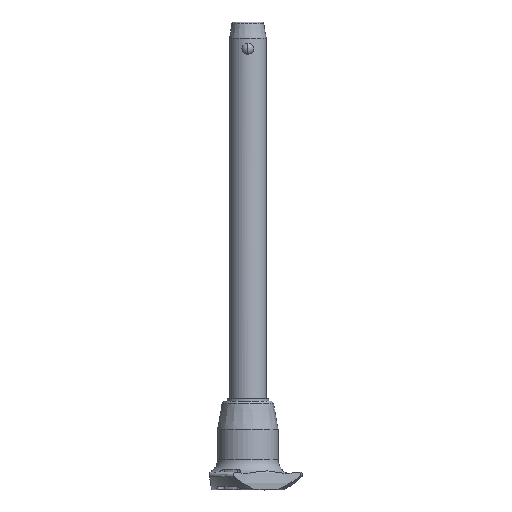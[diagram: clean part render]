
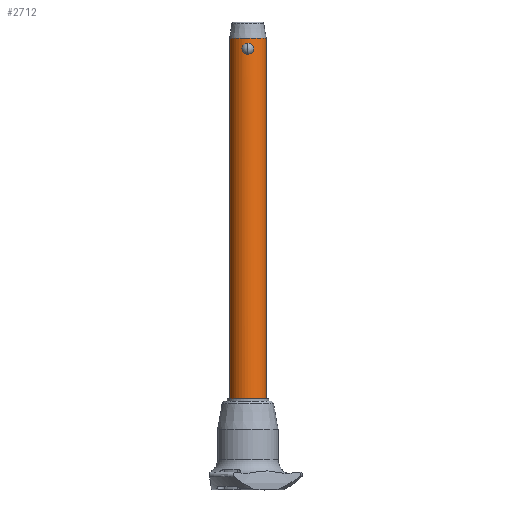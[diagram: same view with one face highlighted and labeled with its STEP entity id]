
A CAD part, front view. The second image highlights one B-rep face of the part: STEP entity #2712.
In plain terms, the highlighted cylindrical face has radius 8 mm (diameter 16 mm), a partial arc.
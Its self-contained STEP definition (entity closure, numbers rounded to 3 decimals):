
#35 = LINE ( 'NONE', #624, #2836 ) ;
#47 = CARTESIAN_POINT ( 'NONE',  ( -1.53, -7.854, 0.464 ) ) ;
#79 = EDGE_LOOP ( 'NONE', ( #468, #935 ) ) ;
#104 = CARTESIAN_POINT ( 'NONE',  ( 0., -8., 0. ) ) ;
#112 = CARTESIAN_POINT ( 'NONE',  ( -2.211, -7.69, 1.148 ) ) ;
#150 = CARTESIAN_POINT ( 'NONE',  ( -1.252, -7.903, 4.479 ) ) ;
#169 = VERTEX_POINT ( 'NONE', #104 ) ;
#176 = CARTESIAN_POINT ( 'NONE',  ( 2.004, -7.746, 0.894 ) ) ;
#179 = CARTESIAN_POINT ( 'NONE',  ( -0.324, -8., 0. ) ) ;
#193 = CARTESIAN_POINT ( 'NONE',  ( 2.194, -7.694, 1.153 ) ) ;
#194 = DIRECTION ( 'NONE',  ( 0., 0., 1. ) ) ;
#210 = CARTESIAN_POINT ( 'NONE',  ( 2.275, -7.67, 1.291 ) ) ;
#243 = EDGE_CURVE ( 'NONE', #457, #169, #830, .T. ) ;
#294 = CARTESIAN_POINT ( 'NONE',  ( -2.408, -7.629, 3.189 ) ) ;
#326 = AXIS2_PLACEMENT_3D ( 'NONE', #2598, #397, #2639 ) ;
#389 = CARTESIAN_POINT ( 'NONE',  ( 1.108, -7.924, 4.548 ) ) ;
#393 = CARTESIAN_POINT ( 'NONE',  ( -1.254, -7.902, 0.297 ) ) ;
#397 = DIRECTION ( 'NONE',  ( 0., 0., 1. ) ) ;
#406 = CARTESIAN_POINT ( 'NONE',  ( 1.657, -7.827, 0.558 ) ) ;
#419 = CARTESIAN_POINT ( 'NONE',  ( 1.105, -7.925, 0.226 ) ) ;
#430 = CARTESIAN_POINT ( 'NONE',  ( 0., 0., -150. ) ) ;
#448 = CARTESIAN_POINT ( 'NONE',  ( -1.106, -7.925, 0.226 ) ) ;
#457 = VERTEX_POINT ( 'NONE', #2221 ) ;
#468 = ORIENTED_EDGE ( 'NONE', *, *, #243, .F. ) ;
#532 = CARTESIAN_POINT ( 'NONE',  ( -2.276, -7.67, 3.482 ) ) ;
#589 = CARTESIAN_POINT ( 'NONE',  ( -1.527, -7.854, 4.313 ) ) ;
#624 = CARTESIAN_POINT ( 'NONE',  ( -8., 0., -150. ) ) ;
#629 = FACE_OUTER_BOUND ( 'NONE', #1933, .T. ) ;
#631 = EDGE_CURVE ( 'NONE', #2695, #1816, #2565, .T. ) ;
#637 = CARTESIAN_POINT ( 'NONE',  ( 2.547, -7.584, 2.549 ) ) ;
#670 = CARTESIAN_POINT ( 'NONE',  ( 0., -8., 4.775 ) ) ;
#682 = CARTESIAN_POINT ( 'NONE',  ( -0.652, -7.979, 0.058 ) ) ;
#737 = VERTEX_POINT ( 'NONE', #850 ) ;
#739 = CARTESIAN_POINT ( 'NONE',  ( -2.546, -7.584, 2.553 ) ) ;
#768 = CARTESIAN_POINT ( 'NONE',  ( -2.529, -7.59, 2.064 ) ) ;
#799 = VERTEX_POINT ( 'NONE', #2520 ) ;
#828 = CARTESIAN_POINT ( 'NONE',  ( 8., 0., 7. ) ) ;
#830 = B_SPLINE_CURVE_WITH_KNOTS ( 'NONE', 3,
 ( #2139, #1906, #1887, #2783, #1231, #2122, #150, #589, #1025, #2578, #1468, #2354, #532, #294, #1418, #1829, #739, #1405, #768, #1644, #2530, #112, #1606, #2494, #47, #393, #448, #682, #179, #1488 ),
 .UNSPECIFIED., .F., .F.,
 ( 4, 2, 2, 2, 2, 2, 2, 2, 2, 2, 2, 2, 2, 2, 4 ),
 ( 0., 0., 0.001, 0.001, 0.002, 0.002, 0.003, 0.003, 0.004, 0.004, 0.005, 0.006, 0.006, 0.007, 0.008 ),
 .UNSPECIFIED. ) ;
#850 = CARTESIAN_POINT ( 'NONE',  ( -8., 0., 7. ) ) ;
#935 = ORIENTED_EDGE ( 'NONE', *, *, #1046, .F. ) ;
#1025 = CARTESIAN_POINT ( 'NONE',  ( -1.658, -7.827, 4.216 ) ) ;
#1046 = EDGE_CURVE ( 'NONE', #169, #457, #1646, .T. ) ;
#1053 = CARTESIAN_POINT ( 'NONE',  ( 0.645, -7.976, 4.704 ) ) ;
#1059 = FACE_BOUND ( 'NONE', #79, .T. ) ;
#1070 = CARTESIAN_POINT ( 'NONE',  ( 2.46, -7.613, 1.742 ) ) ;
#1086 = CARTESIAN_POINT ( 'NONE',  ( 1.529, -7.854, 4.312 ) ) ;
#1122 = EDGE_CURVE ( 'NONE', #799, #737, #35, .T. ) ;
#1231 = CARTESIAN_POINT ( 'NONE',  ( -0.803, -7.961, 4.661 ) ) ;
#1232 = DIRECTION ( 'NONE',  ( 0., 0., 1. ) ) ;
#1245 = ORIENTED_EDGE ( 'NONE', *, *, #2319, .T. ) ;
#1262 = CARTESIAN_POINT ( 'NONE',  ( 0.804, -7.961, 4.661 ) ) ;
#1278 = CARTESIAN_POINT ( 'NONE',  ( 1.252, -7.903, 0.296 ) ) ;
#1299 = CARTESIAN_POINT ( 'NONE',  ( 2.016, -7.746, 3.891 ) ) ;
#1307 = DIRECTION ( 'NONE',  ( 0., 0., -1. ) ) ;
#1344 = CARTESIAN_POINT ( 'NONE',  ( 0.164, -8., 4.775 ) ) ;
#1352 = AXIS2_PLACEMENT_3D ( 'NONE', #430, #1307, #2192 ) ;
#1405 = CARTESIAN_POINT ( 'NONE',  ( -2.547, -7.584, 2.229 ) ) ;
#1418 = CARTESIAN_POINT ( 'NONE',  ( -2.459, -7.613, 3.036 ) ) ;
#1468 = CARTESIAN_POINT ( 'NONE',  ( -2.003, -7.746, 3.882 ) ) ;
#1480 = CIRCLE ( 'NONE', #1352, 8. ) ;
#1488 = CARTESIAN_POINT ( 'NONE',  ( 0., -8., 0. ) ) ;
#1515 = CARTESIAN_POINT ( 'NONE',  ( 2.529, -7.59, 2.71 ) ) ;
#1535 = ORIENTED_EDGE ( 'NONE', *, *, #2819, .F. ) ;
#1606 = CARTESIAN_POINT ( 'NONE',  ( -2.016, -7.746, 0.883 ) ) ;
#1624 = AXIS2_PLACEMENT_3D ( 'NONE', #2412, #1747, #2838 ) ;
#1644 = CARTESIAN_POINT ( 'NONE',  ( -2.461, -7.612, 1.746 ) ) ;
#1646 = B_SPLINE_CURVE_WITH_KNOTS ( 'NONE', 3,
 ( #2384, #2607, #2845, #419, #1278, #1951, #406, #1967, #176, #193, #210, #1721, #1070, #2152, #2620, #637, #1515, #2861, #1736, #2398, #1299, #2185, #1086, #2369, #389, #1262, #1053, #2647, #1344, #670 ),
 .UNSPECIFIED., .F., .F.,
 ( 4, 2, 2, 2, 2, 2, 2, 2, 2, 2, 2, 2, 2, 2, 4 ),
 ( 0.008, 0.009, 0.009, 0.01, 0.01, 0.011, 0.011, 0.012, 0.012, 0.013, 0.014, 0.014, 0.015, 0.015, 0.016 ),
 .UNSPECIFIED. ) ;
#1654 = ORIENTED_EDGE ( 'NONE', *, *, #1122, .F. ) ;
#1721 = CARTESIAN_POINT ( 'NONE',  ( 2.408, -7.629, 1.586 ) ) ;
#1736 = CARTESIAN_POINT ( 'NONE',  ( 2.41, -7.629, 3.184 ) ) ;
#1747 = DIRECTION ( 'NONE',  ( 0., 0., -1. ) ) ;
#1771 = CYLINDRICAL_SURFACE ( 'NONE', #326, 8. ) ;
#1795 = ORIENTED_EDGE ( 'NONE', *, *, #631, .T. ) ;
#1816 = VERTEX_POINT ( 'NONE', #828 ) ;
#1829 = CARTESIAN_POINT ( 'NONE',  ( -2.529, -7.59, 2.716 ) ) ;
#1887 = CARTESIAN_POINT ( 'NONE',  ( -0.326, -7.995, 4.761 ) ) ;
#1906 = CARTESIAN_POINT ( 'NONE',  ( -0.164, -8., 4.775 ) ) ;
#1933 = EDGE_LOOP ( 'NONE', ( #1654, #1535, #1795, #1245 ) ) ;
#1951 = CARTESIAN_POINT ( 'NONE',  ( 1.529, -7.854, 0.463 ) ) ;
#1967 = CARTESIAN_POINT ( 'NONE',  ( 1.894, -7.773, 0.773 ) ) ;
#2082 = CIRCLE ( 'NONE', #1624, 8. ) ;
#2122 = CARTESIAN_POINT ( 'NONE',  ( -1.107, -7.924, 4.548 ) ) ;
#2139 = CARTESIAN_POINT ( 'NONE',  ( 0., -8., 4.775 ) ) ;
#2142 = CARTESIAN_POINT ( 'NONE',  ( 8., 0., -150. ) ) ;
#2152 = CARTESIAN_POINT ( 'NONE',  ( 2.528, -7.59, 2.058 ) ) ;
#2185 = CARTESIAN_POINT ( 'NONE',  ( 1.66, -7.827, 4.215 ) ) ;
#2192 = DIRECTION ( 'NONE',  ( 1., 0., 0. ) ) ;
#2221 = CARTESIAN_POINT ( 'NONE',  ( 0., -8., 4.775 ) ) ;
#2319 = EDGE_CURVE ( 'NONE', #1816, #737, #2082, .T. ) ;
#2322 = CARTESIAN_POINT ( 'NONE',  ( 8., 0., -150. ) ) ;
#2354 = CARTESIAN_POINT ( 'NONE',  ( -2.193, -7.694, 3.623 ) ) ;
#2369 = CARTESIAN_POINT ( 'NONE',  ( 1.253, -7.903, 4.478 ) ) ;
#2384 = CARTESIAN_POINT ( 'NONE',  ( 0., -8., 0. ) ) ;
#2398 = CARTESIAN_POINT ( 'NONE',  ( 2.211, -7.69, 3.626 ) ) ;
#2412 = CARTESIAN_POINT ( 'NONE',  ( 0., 0., 7. ) ) ;
#2494 = CARTESIAN_POINT ( 'NONE',  ( -1.659, -7.827, 0.559 ) ) ;
#2520 = CARTESIAN_POINT ( 'NONE',  ( -8., 0., -150. ) ) ;
#2530 = CARTESIAN_POINT ( 'NONE',  ( -2.411, -7.628, 1.592 ) ) ;
#2550 = VECTOR ( 'NONE', #1232, 1000. ) ;
#2565 = LINE ( 'NONE', #2322, #2550 ) ;
#2578 = CARTESIAN_POINT ( 'NONE',  ( -1.896, -7.773, 4.001 ) ) ;
#2598 = CARTESIAN_POINT ( 'NONE',  ( 0., 0., -150. ) ) ;
#2607 = CARTESIAN_POINT ( 'NONE',  ( 0.324, -8., 0. ) ) ;
#2620 = CARTESIAN_POINT ( 'NONE',  ( 2.546, -7.584, 2.22 ) ) ;
#2639 = DIRECTION ( 'NONE',  ( 1., 0., 0. ) ) ;
#2647 = CARTESIAN_POINT ( 'NONE',  ( 0.326, -7.995, 4.761 ) ) ;
#2695 = VERTEX_POINT ( 'NONE', #2142 ) ;
#2712 = ADVANCED_FACE ( 'NONE', ( #629, #1059 ), #1771, .T. ) ;
#2783 = CARTESIAN_POINT ( 'NONE',  ( -0.645, -7.976, 4.704 ) ) ;
#2819 = EDGE_CURVE ( 'NONE', #2695, #799, #1480, .T. ) ;
#2836 = VECTOR ( 'NONE', #194, 1000. ) ;
#2838 = DIRECTION ( 'NONE',  ( 1., 0., 0. ) ) ;
#2845 = CARTESIAN_POINT ( 'NONE',  ( 0.652, -7.979, 0.058 ) ) ;
#2861 = CARTESIAN_POINT ( 'NONE',  ( 2.461, -7.612, 3.027 ) ) ;
